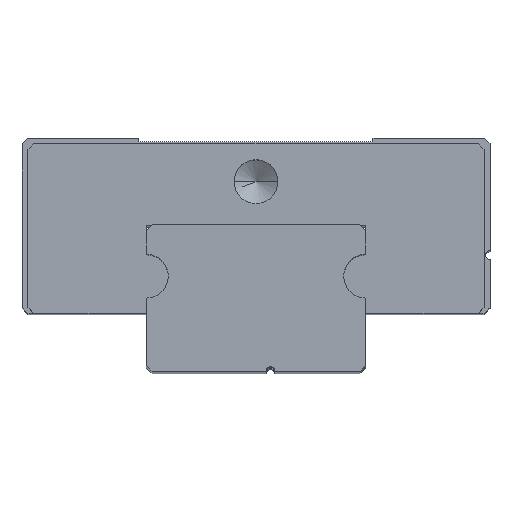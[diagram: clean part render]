
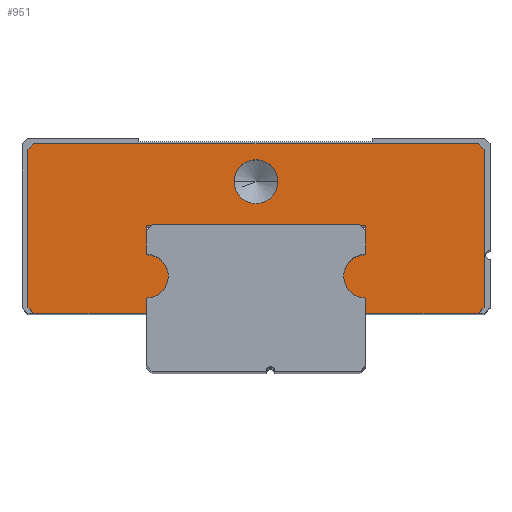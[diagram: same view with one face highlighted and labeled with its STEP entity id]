
A CAD part, top view. The second image highlights one B-rep face of the part: STEP entity #951.
In plain terms, the highlighted planar face has unit normal (0, 0, 1).
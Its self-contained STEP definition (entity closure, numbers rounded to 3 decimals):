
#2=CARTESIAN_POINT('',(0.,13.,29.4));
#3=DIRECTION('',(0.,0.,-1.));
#4=DIRECTION('',(1.,0.,0.));
#5=AXIS2_PLACEMENT_3D('',#2,#3,#4);
#7=CARTESIAN_POINT('',(0.,13.,29.4));
#8=DIRECTION('',(0.,0.,-1.));
#9=DIRECTION('',(-1.,0.,0.));
#10=AXIS2_PLACEMENT_3D('',#7,#8,#9);
#12=CARTESIAN_POINT('',(-7.5,6.5,29.4));
#13=DIRECTION('',(0.,0.,-1.));
#14=DIRECTION('',(0.,1.,0.));
#15=AXIS2_PLACEMENT_3D('',#12,#13,#14);
#17=DIRECTION('',(1.,0.,0.));
#18=VECTOR('',#17,7.7);
#19=CARTESIAN_POINT('',(-15.2,4.,29.4));
#20=LINE('',#19,#18);
#21=DIRECTION('',(0.707,-0.707,0.));
#22=VECTOR('',#21,0.566);
#23=CARTESIAN_POINT('',(-15.6,4.4,29.4));
#24=LINE('',#23,#22);
#25=DIRECTION('',(0.,-1.,0.));
#26=VECTOR('',#25,10.8);
#27=CARTESIAN_POINT('',(-15.6,15.2,29.4));
#28=LINE('',#27,#26);
#29=DIRECTION('',(-0.707,-0.707,0.));
#30=VECTOR('',#29,0.566);
#31=CARTESIAN_POINT('',(-15.2,15.6,29.4));
#32=LINE('',#31,#30);
#33=DIRECTION('',(-1.,0.,0.));
#34=VECTOR('',#33,30.4);
#35=CARTESIAN_POINT('',(15.2,15.6,29.4));
#36=LINE('',#35,#34);
#37=DIRECTION('',(-0.707,0.707,0.));
#38=VECTOR('',#37,0.566);
#39=CARTESIAN_POINT('',(15.6,15.2,29.4));
#40=LINE('',#39,#38);
#41=DIRECTION('',(0.707,0.707,0.));
#42=VECTOR('',#41,0.566);
#43=CARTESIAN_POINT('',(15.2,4.,29.4));
#44=LINE('',#43,#42);
#45=DIRECTION('',(1.,0.,0.));
#46=VECTOR('',#45,7.7);
#47=CARTESIAN_POINT('',(7.5,4.,29.4));
#48=LINE('',#47,#46);
#49=CARTESIAN_POINT('',(7.5,6.5,29.4));
#50=DIRECTION('',(0.,0.,-1.));
#51=DIRECTION('',(0.,-1.,0.));
#52=AXIS2_PLACEMENT_3D('',#49,#50,#51);
#186=DIRECTION('',(0.,-1.,0.));
#187=VECTOR('',#186,1.);
#188=CARTESIAN_POINT('',(-7.5,5.,29.4));
#189=LINE('',#188,#187);
#374=DIRECTION('',(0.,-1.,0.));
#375=VECTOR('',#374,10.8);
#376=CARTESIAN_POINT('',(15.6,15.2,29.4));
#377=LINE('',#376,#375);
#450=DIRECTION('',(0.,1.,0.));
#451=VECTOR('',#450,1.);
#452=CARTESIAN_POINT('',(7.5,4.,29.4));
#453=LINE('',#452,#451);
#466=DIRECTION('',(0.,1.,0.));
#467=VECTOR('',#466,2.);
#468=CARTESIAN_POINT('',(7.5,8.,29.4));
#469=LINE('',#468,#467);
#470=DIRECTION('',(-1.,0.,0.));
#471=VECTOR('',#470,15.);
#472=CARTESIAN_POINT('',(7.5,10.,29.4));
#473=LINE('',#472,#471);
#478=DIRECTION('',(0.,-1.,0.));
#479=VECTOR('',#478,2.);
#480=CARTESIAN_POINT('',(-7.5,10.,29.4));
#481=LINE('',#480,#479);
#690=CARTESIAN_POINT('',(7.5,4.,29.4));
#691=CARTESIAN_POINT('',(15.2,4.,29.4));
#692=VERTEX_POINT('',#690);
#693=VERTEX_POINT('',#691);
#694=CARTESIAN_POINT('',(15.6,4.4,29.4));
#695=VERTEX_POINT('',#694);
#696=CARTESIAN_POINT('',(15.6,15.2,29.4));
#697=VERTEX_POINT('',#696);
#698=CARTESIAN_POINT('',(15.2,15.6,29.4));
#699=VERTEX_POINT('',#698);
#700=CARTESIAN_POINT('',(-15.2,15.6,29.4));
#701=VERTEX_POINT('',#700);
#702=CARTESIAN_POINT('',(-15.6,15.2,29.4));
#703=VERTEX_POINT('',#702);
#704=CARTESIAN_POINT('',(-15.6,4.4,29.4));
#705=VERTEX_POINT('',#704);
#706=CARTESIAN_POINT('',(-15.2,4.,29.4));
#707=VERTEX_POINT('',#706);
#708=CARTESIAN_POINT('',(-7.5,4.,29.4));
#709=VERTEX_POINT('',#708);
#710=CARTESIAN_POINT('',(-7.5,5.,29.4));
#711=VERTEX_POINT('',#710);
#712=CARTESIAN_POINT('',(-7.5,10.,29.4));
#713=CARTESIAN_POINT('',(-7.5,8.,29.4));
#714=VERTEX_POINT('',#712);
#715=VERTEX_POINT('',#713);
#716=CARTESIAN_POINT('',(7.5,10.,29.4));
#717=VERTEX_POINT('',#716);
#718=CARTESIAN_POINT('',(7.5,8.,29.4));
#719=VERTEX_POINT('',#718);
#720=CARTESIAN_POINT('',(7.5,5.,29.4));
#721=VERTEX_POINT('',#720);
#886=CARTESIAN_POINT('',(1.5,13.,29.4));
#887=CARTESIAN_POINT('',(-1.5,13.,29.4));
#888=VERTEX_POINT('',#886);
#889=VERTEX_POINT('',#887);
#906=CARTESIAN_POINT('',(16.,8.,29.4));
#907=DIRECTION('',(0.,0.,1.));
#908=DIRECTION('',(1.,0.,0.));
#909=AXIS2_PLACEMENT_3D('',#906,#907,#908);
#910=PLANE('',#909);
#912=ORIENTED_EDGE('',*,*,#911,.T.);
#914=ORIENTED_EDGE('',*,*,#913,.T.);
#916=ORIENTED_EDGE('',*,*,#915,.F.);
#918=ORIENTED_EDGE('',*,*,#917,.F.);
#920=ORIENTED_EDGE('',*,*,#919,.F.);
#922=ORIENTED_EDGE('',*,*,#921,.F.);
#924=ORIENTED_EDGE('',*,*,#923,.F.);
#926=ORIENTED_EDGE('',*,*,#925,.F.);
#928=ORIENTED_EDGE('',*,*,#927,.T.);
#930=ORIENTED_EDGE('',*,*,#929,.F.);
#932=ORIENTED_EDGE('',*,*,#931,.F.);
#934=ORIENTED_EDGE('',*,*,#933,.T.);
#936=ORIENTED_EDGE('',*,*,#935,.T.);
#938=ORIENTED_EDGE('',*,*,#937,.T.);
#940=ORIENTED_EDGE('',*,*,#939,.T.);
#942=ORIENTED_EDGE('',*,*,#941,.T.);
#943=EDGE_LOOP('',(#912,#914,#916,#918,#920,#922,#924,#926,#928,#930,#932,#934,
#936,#938,#940,#942));
#944=FACE_OUTER_BOUND('',#943,.F.);
#946=ORIENTED_EDGE('',*,*,#945,.F.);
#948=ORIENTED_EDGE('',*,*,#947,.F.);
#949=EDGE_LOOP('',(#946,#948));
#950=FACE_BOUND('',#949,.F.);
#951=ADVANCED_FACE('',(#944,#950),#910,.T.);
#6=CIRCLE('',#5,1.5);
#11=CIRCLE('',#10,1.5);
#16=CIRCLE('',#15,1.5);
#53=CIRCLE('',#52,1.5);
#911=EDGE_CURVE('',#715,#711,#16,.T.);
#913=EDGE_CURVE('',#711,#709,#189,.T.);
#915=EDGE_CURVE('',#707,#709,#20,.T.);
#917=EDGE_CURVE('',#705,#707,#24,.T.);
#919=EDGE_CURVE('',#703,#705,#28,.T.);
#921=EDGE_CURVE('',#701,#703,#32,.T.);
#923=EDGE_CURVE('',#699,#701,#36,.T.);
#925=EDGE_CURVE('',#697,#699,#40,.T.);
#927=EDGE_CURVE('',#697,#695,#377,.T.);
#929=EDGE_CURVE('',#693,#695,#44,.T.);
#931=EDGE_CURVE('',#692,#693,#48,.T.);
#933=EDGE_CURVE('',#692,#721,#453,.T.);
#935=EDGE_CURVE('',#721,#719,#53,.T.);
#937=EDGE_CURVE('',#719,#717,#469,.T.);
#939=EDGE_CURVE('',#717,#714,#473,.T.);
#941=EDGE_CURVE('',#714,#715,#481,.T.);
#945=EDGE_CURVE('',#888,#889,#6,.T.);
#947=EDGE_CURVE('',#889,#888,#11,.T.);
